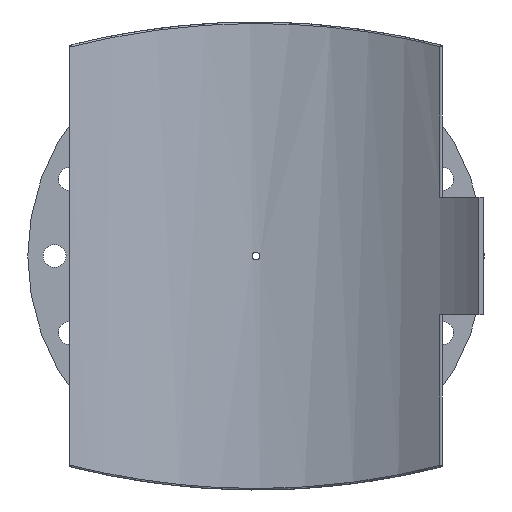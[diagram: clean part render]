
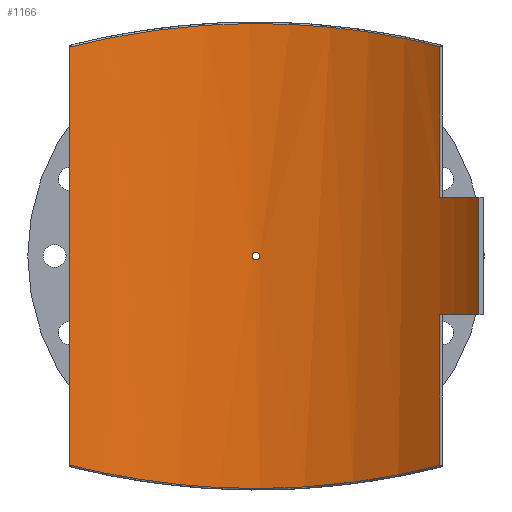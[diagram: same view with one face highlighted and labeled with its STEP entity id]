
A CAD part, front view. The second image highlights one B-rep face of the part: STEP entity #1166.
In plain terms, the highlighted cylindrical face has radius 400 mm (diameter 800 mm), a partial arc.
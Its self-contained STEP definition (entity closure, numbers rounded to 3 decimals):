
#55=FACE_BOUND('',#379,.T.);
#117=B_SPLINE_CURVE_WITH_KNOTS('',3,(#2403,#2404,#2405,#2406,#2407,#2408,
#2409,#2410,#2411,#2412),.UNSPECIFIED.,.F.,.F.,(4,1,1,1,1,1,1,4),(-59.827,
-52.322,-44.816,-37.311,-29.806,
-22.301,-14.795,-7.29),.UNSPECIFIED.);
#118=B_SPLINE_CURVE_WITH_KNOTS('',3,(#2421,#2422,#2423,#2424,#2425,#2426,
#2427,#2428,#2429,#2430),.UNSPECIFIED.,.F.,.F.,(4,1,1,1,1,1,1,4),(-55.769,
-48.263,-40.758,-33.253,-25.747,
-18.242,-10.737,-3.232),.UNSPECIFIED.);
#119=B_SPLINE_CURVE_WITH_KNOTS('',3,(#2433,#2434,#2435,#2436,#2437,#2438,
#2439,#2440,#2441,#2442),.UNSPECIFIED.,.F.,.F.,(4,2,2,2,4),(0.,0.196,
0.392,0.588,0.784),.UNSPECIFIED.);
#120=B_SPLINE_CURVE_WITH_KNOTS('',3,(#2443,#2444,#2445,#2446,#2447,#2448,
#2449,#2450,#2451,#2452,#2453,#2454,#2455,#2456,#2457,#2458,#2459,#2460,
#2461,#2462,#2463,#2464,#2465,#2466,#2467,#2468),.UNSPECIFIED.,.F.,.F.,
(4,2,2,2,2,2,2,2,2,2,2,2,4),(0.784,0.979,1.175,
1.371,1.567,1.763,1.959,2.155,
2.351,2.546,2.742,2.938,3.134),
 .UNSPECIFIED.);
#141=LINE('',#1747,#196);
#152=LINE('',#2055,#207);
#159=LINE('',#2417,#214);
#160=LINE('',#2420,#215);
#196=VECTOR('',#1396,10.);
#207=VECTOR('',#1435,10.);
#214=VECTOR('',#1472,10.);
#215=VECTOR('',#1475,10.);
#260=CYLINDRICAL_SURFACE('',#1267,400.);
#308=FACE_OUTER_BOUND('',#378,.T.);
#378=EDGE_LOOP('',(#903,#904,#905,#906,#907,#908,#909,#910));
#379=EDGE_LOOP('',(#911,#912));
#485=CIRCLE('',#1268,400.);
#486=CIRCLE('',#1269,400.);
#554=VERTEX_POINT('',#1738);
#557=VERTEX_POINT('',#1745);
#577=VERTEX_POINT('',#2048);
#580=VERTEX_POINT('',#2053);
#593=VERTEX_POINT('',#2386);
#594=VERTEX_POINT('',#2414);
#595=VERTEX_POINT('',#2416);
#596=VERTEX_POINT('',#2419);
#597=VERTEX_POINT('',#2431);
#598=VERTEX_POINT('',#2432);
#665=EDGE_CURVE('',#557,#554,#141,.T.);
#695=EDGE_CURVE('',#580,#577,#152,.T.);
#718=EDGE_CURVE('',#593,#580,#117,.T.);
#719=EDGE_CURVE('',#594,#557,#485,.T.);
#720=EDGE_CURVE('',#594,#595,#159,.T.);
#721=EDGE_CURVE('',#577,#595,#486,.T.);
#722=EDGE_CURVE('',#596,#593,#160,.T.);
#723=EDGE_CURVE('',#554,#596,#118,.T.);
#724=EDGE_CURVE('',#597,#598,#119,.T.);
#725=EDGE_CURVE('',#598,#597,#120,.T.);
#903=ORIENTED_EDGE('',*,*,#719,.F.);
#904=ORIENTED_EDGE('',*,*,#720,.T.);
#905=ORIENTED_EDGE('',*,*,#721,.F.);
#906=ORIENTED_EDGE('',*,*,#695,.F.);
#907=ORIENTED_EDGE('',*,*,#718,.F.);
#908=ORIENTED_EDGE('',*,*,#722,.F.);
#909=ORIENTED_EDGE('',*,*,#723,.F.);
#910=ORIENTED_EDGE('',*,*,#665,.F.);
#911=ORIENTED_EDGE('',*,*,#724,.T.);
#912=ORIENTED_EDGE('',*,*,#725,.T.);
#1166=ADVANCED_FACE('',(#308,#55),#260,.F.);
#1267=AXIS2_PLACEMENT_3D('',#2413,#1468,#1469);
#1268=AXIS2_PLACEMENT_3D('',#2415,#1470,#1471);
#1269=AXIS2_PLACEMENT_3D('',#2418,#1473,#1474);
#1396=DIRECTION('',(0.,0.,-1.));
#1435=DIRECTION('',(0.,0.,-1.));
#1468=DIRECTION('center_axis',(0.,0.,1.));
#1469=DIRECTION('ref_axis',(-1.,0.,0.));
#1470=DIRECTION('center_axis',(0.,0.,1.));
#1471=DIRECTION('ref_axis',(-0.727,-0.687,0.));
#1472=DIRECTION('',(0.,0.,1.));
#1473=DIRECTION('center_axis',(0.,0.,-1.));
#1474=DIRECTION('ref_axis',(-0.727,-0.687,0.));
#1475=DIRECTION('',(0.,0.,1.));
#1738=CARTESIAN_POINT('',(239.801,320.149,-272.945));
#1745=CARTESIAN_POINT('',(239.801,320.149,-76.25));
#1747=CARTESIAN_POINT('',(239.801,320.149,0.));
#2048=CARTESIAN_POINT('',(239.801,320.149,76.25));
#2053=CARTESIAN_POINT('',(239.801,320.149,272.945));
#2055=CARTESIAN_POINT('',(239.801,320.149,0.));
#2386=CARTESIAN_POINT('',(-243.,317.728,272.124));
#2403=CARTESIAN_POINT('Ctrl Pts',(-243.,317.728,272.124));
#2404=CARTESIAN_POINT('Ctrl Pts',(-223.628,332.544,277.127));
#2405=CARTESIAN_POINT('Ctrl Pts',(-182.063,358.706,286.577));
#2406=CARTESIAN_POINT('Ctrl Pts',(-113.042,386.098,297.301));
#2407=CARTESIAN_POINT('Ctrl Pts',(-39.581,400.38,303.154));
#2408=CARTESIAN_POINT('Ctrl Pts',(35.48,400.767,303.315));
#2409=CARTESIAN_POINT('Ctrl Pts',(109.106,387.23,297.757));
#2410=CARTESIAN_POINT('Ctrl Pts',(178.435,360.528,287.27));
#2411=CARTESIAN_POINT('Ctrl Pts',(220.276,334.774,277.916));
#2412=CARTESIAN_POINT('Ctrl Pts',(239.801,320.149,272.945));
#2413=CARTESIAN_POINT('Origin',(0.,0.,0.));
#2414=CARTESIAN_POINT('',(290.611,274.855,-76.25));
#2415=CARTESIAN_POINT('Origin',(0.,0.,
-76.25));
#2416=CARTESIAN_POINT('',(290.611,274.855,76.25));
#2417=CARTESIAN_POINT('',(290.611,274.855,0.));
#2418=CARTESIAN_POINT('Origin',(0.,0.,
76.25));
#2419=CARTESIAN_POINT('',(-243.,317.728,-272.124));
#2420=CARTESIAN_POINT('',(-243.,317.728,0.));
#2421=CARTESIAN_POINT('Ctrl Pts',(239.801,320.149,-272.945));
#2422=CARTESIAN_POINT('Ctrl Pts',(220.276,334.774,-277.916));
#2423=CARTESIAN_POINT('Ctrl Pts',(178.434,360.528,-287.269));
#2424=CARTESIAN_POINT('Ctrl Pts',(109.106,387.231,-297.758));
#2425=CARTESIAN_POINT('Ctrl Pts',(35.479,400.765,-303.314));
#2426=CARTESIAN_POINT('Ctrl Pts',(-39.581,400.381,-303.155));
#2427=CARTESIAN_POINT('Ctrl Pts',(-113.041,386.097,-297.3));
#2428=CARTESIAN_POINT('Ctrl Pts',(-182.064,358.707,-286.577));
#2429=CARTESIAN_POINT('Ctrl Pts',(-223.628,332.544,-277.127));
#2430=CARTESIAN_POINT('Ctrl Pts',(-243.,317.728,-272.124));
#2431=CARTESIAN_POINT('',(5.2,399.966,0.));
#2432=CARTESIAN_POINT('',(0.,400.,-5.2));
#2433=CARTESIAN_POINT('Ctrl Pts',(5.2,399.966,0.));
#2434=CARTESIAN_POINT('Ctrl Pts',(5.2,399.966,-0.653));
#2435=CARTESIAN_POINT('Ctrl Pts',(5.07,399.968,-1.349));
#2436=CARTESIAN_POINT('Ctrl Pts',(4.539,399.974,-2.631));
#2437=CARTESIAN_POINT('Ctrl Pts',(4.139,399.979,-3.215));
#2438=CARTESIAN_POINT('Ctrl Pts',(3.215,399.987,-4.139));
#2439=CARTESIAN_POINT('Ctrl Pts',(2.631,399.992,-4.539));
#2440=CARTESIAN_POINT('Ctrl Pts',(1.349,399.998,-5.07));
#2441=CARTESIAN_POINT('Ctrl Pts',(0.653,400.,-5.2));
#2442=CARTESIAN_POINT('Ctrl Pts',(0.,400.,-5.2));
#2443=CARTESIAN_POINT('Ctrl Pts',(0.,400.,-5.2));
#2444=CARTESIAN_POINT('Ctrl Pts',(-0.653,400.,-5.2));
#2445=CARTESIAN_POINT('Ctrl Pts',(-1.349,399.998,-5.07));
#2446=CARTESIAN_POINT('Ctrl Pts',(-2.631,399.992,-4.539));
#2447=CARTESIAN_POINT('Ctrl Pts',(-3.215,399.987,-4.139));
#2448=CARTESIAN_POINT('Ctrl Pts',(-4.139,399.979,-3.215));
#2449=CARTESIAN_POINT('Ctrl Pts',(-4.539,399.974,-2.631));
#2450=CARTESIAN_POINT('Ctrl Pts',(-5.07,399.968,-1.349));
#2451=CARTESIAN_POINT('Ctrl Pts',(-5.2,399.966,-0.653));
#2452=CARTESIAN_POINT('Ctrl Pts',(-5.2,399.966,0.653));
#2453=CARTESIAN_POINT('Ctrl Pts',(-5.07,399.968,1.349));
#2454=CARTESIAN_POINT('Ctrl Pts',(-4.539,399.974,2.631));
#2455=CARTESIAN_POINT('Ctrl Pts',(-4.139,399.979,3.215));
#2456=CARTESIAN_POINT('Ctrl Pts',(-3.215,399.987,4.139));
#2457=CARTESIAN_POINT('Ctrl Pts',(-2.631,399.992,4.539));
#2458=CARTESIAN_POINT('Ctrl Pts',(-1.349,399.998,5.07));
#2459=CARTESIAN_POINT('Ctrl Pts',(-0.653,400.,5.2));
#2460=CARTESIAN_POINT('Ctrl Pts',(0.653,400.,5.2));
#2461=CARTESIAN_POINT('Ctrl Pts',(1.349,399.998,5.07));
#2462=CARTESIAN_POINT('Ctrl Pts',(2.631,399.992,4.539));
#2463=CARTESIAN_POINT('Ctrl Pts',(3.215,399.987,4.139));
#2464=CARTESIAN_POINT('Ctrl Pts',(4.139,399.979,3.215));
#2465=CARTESIAN_POINT('Ctrl Pts',(4.539,399.974,2.631));
#2466=CARTESIAN_POINT('Ctrl Pts',(5.07,399.968,1.349));
#2467=CARTESIAN_POINT('Ctrl Pts',(5.2,399.966,0.653));
#2468=CARTESIAN_POINT('Ctrl Pts',(5.2,399.966,0.));
